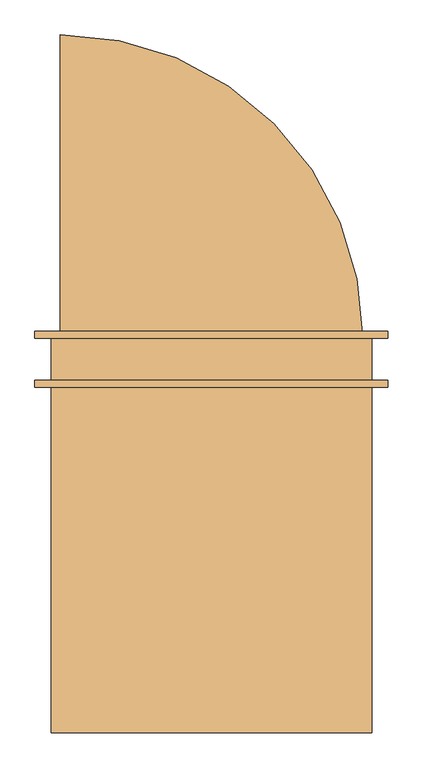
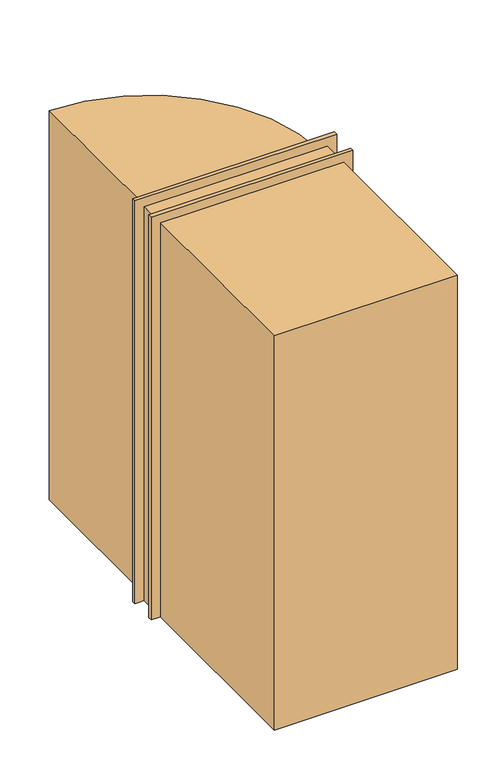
"""IFC4 building model written with IfcOpenShell, lengths in millimetres: door geometry, Дверь_Деревянная_Внутренняя_Однопольная_ГОСТ_475-2016 : 0910 х 2070(h)_Пр_с Порогом."""

import ifcopenshell
import ifcopenshell.guid

model = None  # the IFC model being written
_history = None  # IfcOwnerHistory: only IFC2X3 demands one
_inside = {}  # id of a spatial element -> (the spatial element, [elements in it])
_under = {}  # id of a project, library or spatial element -> (it, [spatial elements below it])
_declared = {}  # id of a project -> (the project, [libraries it declares])
_typed = {}  # id of a type object -> (the type object, [elements of that type])
_made_of = {}  # id of a material, layer set ... -> (it, [elements and type objects made of it])


def new_model(schema):
    """Start an empty IFC model of exactly this schema.

    Asked for "IFC4X3", IfcOpenShell would pick the latest addendum, in which some entities
    have other attributes; the version numbers below select the first issue.
    IFC2X3 requires an IfcOwnerHistory on every rooted entity: one is made here for all.
    """
    global model, _history
    if schema == "IFC4X3":
        model = ifcopenshell.file(schema_version=(4, 3, 0, 0))
    else:
        model = ifcopenshell.file(schema=schema)
    _inside.clear()
    _under.clear()
    _declared.clear()
    _typed.clear()
    _made_of.clear()
    _history = None
    if model.schema == "IFC2X3":
        org = make("IfcOrganization", Name="unknown")
        user = make(
            "IfcPersonAndOrganization",
            ThePerson=make("IfcPerson", FamilyName="unknown"),
            TheOrganization=org,
        )
        app = make(
            "IfcApplication",
            ApplicationDeveloper=org,
            Version="unknown",
            ApplicationFullName="unknown",
            ApplicationIdentifier="unknown",
        )
        _history = make(
            "IfcOwnerHistory",
            OwningUser=user,
            OwningApplication=app,
            ChangeAction="ADDED",
            CreationDate=0,
        )
    return model


def make(cls, **values):
    """One entity of the class cls with the attributes given. An attribute that is None is left unset."""
    return model.create_entity(
        cls, **{name: value for name, value in values.items() if value is not None}
    )


def rooted(cls, **values):
    """An entity with a GlobalId (a new one), such as an element, a storey or a relation."""
    return make(cls, GlobalId=ifcopenshell.guid.new(), OwnerHistory=_history, **values)


def si_unit(unit_type, name, prefix=None):
    """IfcSIUnit, for example si_unit("LENGTHUNIT", "METRE", prefix="MILLI")."""
    return make("IfcSIUnit", UnitType=unit_type, Prefix=prefix, Name=name)


def assignment(units):
    """IfcUnitAssignment: the units of a project."""
    return None if units is None else make("IfcUnitAssignment", Units=units)


def point(xyz):
    """IfcCartesianPoint."""
    return None if xyz is None else make("IfcCartesianPoint", Coordinates=xyz)


def direction(xyz):
    """IfcDirection."""
    return None if xyz is None else make("IfcDirection", DirectionRatios=xyz)


def frame(location, z_axis=None, x_axis=None):
    """IfcAxis2Placement3D, a coordinate frame: its origin and axes. An axis left out is left unset."""
    return make(
        "IfcAxis2Placement3D",
        Location=point(location),
        Axis=direction(z_axis),
        RefDirection=direction(x_axis),
    )


def frame_2d(location, x_axis=None):
    """IfcAxis2Placement2D, a coordinate frame in the plane: its origin and x axis."""
    return make(
        "IfcAxis2Placement2D", Location=point(location), RefDirection=direction(x_axis)
    )


def origin():
    """The frame at (0, 0, 0) with its axes left unset."""
    return frame((0.0, 0.0, 0.0))


def origin_with_axes():
    """The frame at (0, 0, 0) with the z axis (0, 0, 1) and the x axis (1, 0, 0) written out."""
    return frame((0.0, 0.0, 0.0), z_axis=(0.0, 0.0, 1.0), x_axis=(1.0, 0.0, 0.0))


def place(relative_to, where):
    """IfcLocalPlacement: puts the frame where relative to a parent placement (None: the world)."""
    return make(
        "IfcLocalPlacement", PlacementRelTo=relative_to, RelativePlacement=where
    )


def context(
    kind, dimensions, precision=None, world=None, true_north=None, identifier=None
):
    """IfcGeometricRepresentationContext, for example the 3D "Model" context."""
    return make(
        "IfcGeometricRepresentationContext",
        ContextIdentifier=identifier,
        ContextType=kind,
        CoordinateSpaceDimension=dimensions,
        Precision=precision,
        WorldCoordinateSystem=world,
        TrueNorth=true_north,
    )


def project(units=None, contexts=None):
    """IfcProject with its units and contexts."""
    return rooted(
        "IfcProject",
        Name="project",
        RepresentationContexts=contexts,
        UnitsInContext=assignment(units),
    )


def spatial(cls, under=None, at=None, **own):
    """A site, building, storey or space (cls), placed at a placement, below another one or the project."""
    s = rooted(cls, ObjectPlacement=at, **own)
    if under is not None:
        _under.setdefault(under.id(), (under, []))[1].append(s)
    return s


def polyline(points):
    """IfcPolyline through the points."""
    return make("IfcPolyline", Points=[point(p) for p in points])


def circle_curve(where, radius):
    """IfcCircle in the frame where."""
    return make("IfcCircle", Position=where, Radius=radius)


def trimmed(basis, trim1, trim2, sense, master):
    """IfcTrimmedCurve: the piece of a basis curve between two trims."""
    return make(
        "IfcTrimmedCurve",
        BasisCurve=basis,
        Trim1=trim1,
        Trim2=trim2,
        SenseAgreement=sense,
        MasterRepresentation=master,
    )


def segment(curve, same_sense, transition):
    """IfcCompositeCurveSegment."""
    return make(
        "IfcCompositeCurveSegment",
        Transition=transition,
        SameSense=same_sense,
        ParentCurve=curve,
    )


def composite_curve(segments, self_intersect=None):
    """IfcCompositeCurve: segments joined end to end."""
    return make("IfcCompositeCurve", Segments=segments, SelfIntersect=self_intersect)


def outline(outer, holes=None, kind="AREA"):
    """IfcArbitraryClosedProfileDef: a profile drawn as a closed curve; with holes, ...WithVoids."""
    if holes is None:
        return make("IfcArbitraryClosedProfileDef", ProfileType=kind, OuterCurve=outer)
    return make(
        "IfcArbitraryProfileDefWithVoids",
        ProfileType=kind,
        OuterCurve=outer,
        InnerCurves=holes,
    )


def extrude(swept, where, along, depth):
    """IfcExtrudedAreaSolid: the profile swept, set in the frame where, extruded along a direction by depth."""
    return make(
        "IfcExtrudedAreaSolid",
        SweptArea=swept,
        Position=where,
        ExtrudedDirection=direction(along),
        Depth=depth,
    )


def faces_of(points, faces, orient=None, outer=None):
    """IfcFace entities. A face is a list of loops; a loop is a list of indices into points, from 0.

    orient and outer hold one flag for each loop. By default every Orientation is true, the
    first loop of a face is its IfcFaceOuterBound and the others are IfcFaceBound.
    """
    made = []
    for i, loops in enumerate(faces):
        bounds = []
        for j, loop in enumerate(loops):
            is_outer = j == 0 if outer is None else outer[i][j]
            bounds.append(
                make(
                    "IfcFaceOuterBound" if is_outer else "IfcFaceBound",
                    Bound=make("IfcPolyLoop", Polygon=[points[k] for k in loop]),
                    Orientation=True if orient is None else orient[i][j],
                )
            )
        made.append(make("IfcFace", Bounds=bounds))
    return made


def faceted_brep(points, faces, orient=None, outer=None, voids=None):
    """IfcFacetedBrep: a solid bounded by flat faces; with voids (closed shells), ...WithVoids."""
    shared = [point(p) for p in points]
    hull = make("IfcClosedShell", CfsFaces=faces_of(shared, faces, orient, outer))
    if voids is None:
        return make("IfcFacetedBrep", Outer=hull)
    return make(
        "IfcFacetedBrepWithVoids",
        Outer=hull,
        Voids=[
            make(cls, CfsFaces=faces_of(shared, fs, o, b)) for cls, fs, o, b in voids
        ],
    )


def shape(context_of_items, identifier, shape_type, items):
    """IfcShapeRepresentation: the items that make up one representation, for example the "Body"."""
    return make(
        "IfcShapeRepresentation",
        ContextOfItems=context_of_items,
        RepresentationIdentifier=identifier,
        RepresentationType=shape_type,
        Items=items,
    )


def source(mapping_origin, context_of_items, identifier, shape_type, items):
    """IfcRepresentationMap: a shape defined once, which mapped items show again and again."""
    return make(
        "IfcRepresentationMap",
        MappingOrigin=mapping_origin,
        MappedRepresentation=shape(context_of_items, identifier, shape_type, items),
    )


def transform(
    local_origin,
    x_axis=None,
    y_axis=None,
    z_axis=None,
    scale=None,
    scale2=None,
    scale3=None,
    uniform=True,
):
    """IfcCartesianTransformationOperator3D, or its non-uniform kind. x_axis, y_axis, z_axis: its Axis1, 2, 3."""
    if uniform:
        return make(
            "IfcCartesianTransformationOperator3D",
            Axis1=direction(x_axis),
            Axis2=direction(y_axis),
            LocalOrigin=point(local_origin),
            Scale=scale,
            Axis3=direction(z_axis),
        )
    return make(
        "IfcCartesianTransformationOperator3DnonUniform",
        Axis1=direction(x_axis),
        Axis2=direction(y_axis),
        LocalOrigin=point(local_origin),
        Scale=scale,
        Axis3=direction(z_axis),
        Scale2=scale2,
        Scale3=scale3,
    )


def mapped(mapping_source, mapping_target):
    """IfcMappedItem: shows the shape of a source again, moved by a transform."""
    return make(
        "IfcMappedItem", MappingSource=mapping_source, MappingTarget=mapping_target
    )


def made_of(thing, what):
    """Note that an element or type object is made of a material, layer set ...; save() writes the relation."""
    if what is not None:
        _made_of.setdefault(what.id(), (what, []))[1].append(thing)
    return thing


def element(
    cls,
    number,
    at=None,
    inside=None,
    cuts=None,
    type_object=None,
    material=None,
    context=None,
    identifier="Body",
    shape_type=None,
    held_by="IfcProductDefinitionShape",
    body=None,
    shapes=None,
    **own,
):
    """One element of the class cls, such as IfcWall. Its Tag is "e" and its number.

    at: its placement. inside: the storey or other place that contains it. cuts: it is an
    opening in that element (IfcRelVoidsElement). A single representation is given by context,
    identifier, shape_type and body (its items); several are given by shapes. held_by: the class
    of the entity that holds the representations. save() writes the other relations.
    """
    e = rooted(cls, Tag="e%d" % number, ObjectPlacement=at, **own)
    if body is not None:
        shapes = [shape(context, identifier, shape_type, body)]
    if shapes is not None:
        e.Representation = make(held_by, Representations=shapes)
    if inside is not None:
        _inside.setdefault(inside.id(), (inside, []))[1].append(e)
    if cuts is not None:
        rooted(
            "IfcRelVoidsElement", RelatingBuildingElement=cuts, RelatedOpeningElement=e
        )
    if type_object is not None:
        _typed.setdefault(type_object.id(), (type_object, []))[1].append(e)
    return made_of(e, material)


def aggregate(whole, parts):
    """IfcRelAggregates: a whole, such as a stair, and the parts it consists of."""
    return rooted("IfcRelAggregates", RelatingObject=whole, RelatedObjects=parts)


def save(model, path):
    """Write the relations noted so far, then the file.

    IfcRelAggregates (storeys below a building ...), IfcRelContainedInSpatialStructure (elements
    in a storey), IfcRelDefinesByType, IfcRelAssociatesMaterial and IfcRelDeclares: one each for
    every whole, place, type object, material and project.
    """
    for whole, parts in _under.values():
        aggregate(whole, parts)
    for where, things in _inside.values():
        rooted(
            "IfcRelContainedInSpatialStructure",
            RelatedElements=things,
            RelatingStructure=where,
        )
    for kind, things in _typed.values():
        rooted("IfcRelDefinesByType", RelatedObjects=things, RelatingType=kind)
    for what, things in _made_of.values():
        rooted("IfcRelAssociatesMaterial", RelatedObjects=things, RelatingMaterial=what)
    for by, libraries in _declared.values():
        rooted("IfcRelDeclares", RelatingContext=by, RelatedDefinitions=libraries)
    model.write(path)


def plane_surface(at):
    """IfcPlane: the flat surface through the origin of the frame at, square to its z axis."""
    return make("IfcPlane", Position=at)


def cylinder_surface(at, radius):
    """IfcCylindricalSurface: all points at the distance radius from the z axis of the frame at."""
    return make("IfcCylindricalSurface", Position=at, Radius=radius)


def revolved_surface(curve, axis_point, axis_direction):
    """IfcSurfaceOfRevolution: the curve turned about the line through axis_point along axis_direction."""
    return make(
        "IfcSurfaceOfRevolution",
        SweptCurve=make("IfcArbitraryOpenProfileDef", ProfileType="CURVE", Curve=curve),
        AxisPosition=make("IfcAxis1Placement", Location=point(axis_point), Axis=direction(axis_direction)),
    )


def advanced_brep(points, edges, surfaces, faces):
    """IfcAdvancedBrep: a solid bounded by faces that lie on surfaces and meet in shared edges.

    An edge is (start, end): straight between two places in points (the first is 0);
    or (start, end, curve); or (start, end, curve, False) where it runs against its curve.
    A face is (place in surfaces, loops), or (place, loops, False) where it looks against
    its surface's normal. A loop lists edges by number (the first is 1), with a minus sign
    where the edge is run from its end to its start. The first loop is the outer one.
    """
    corners = [point(p) for p in points]
    vertices = [make("IfcVertexPoint", VertexGeometry=c) for c in corners]
    made = []
    for start, end, *more in edges:
        made.append(
            make(
                "IfcEdgeCurve",
                EdgeStart=vertices[start],
                EdgeEnd=vertices[end],
                EdgeGeometry=more[0] if more else make("IfcPolyline", Points=[corners[start], corners[end]]),
                SameSense=more[1] if len(more) > 1 else True,
            )
        )
    hull = []
    for where, loops, *sense in faces:
        bounds = []
        for j, loop in enumerate(loops):
            ring = [make("IfcOrientedEdge", EdgeElement=made[abs(k) - 1], Orientation=k > 0) for k in loop]
            bounds.append(
                make(
                    "IfcFaceOuterBound" if j == 0 else "IfcFaceBound",
                    Bound=make("IfcEdgeLoop", EdgeList=ring),
                    Orientation=True,
                )
            )
        hull.append(make("IfcAdvancedFace", Bounds=bounds, FaceSurface=surfaces[where], SameSense=sense[0] if sense else True))
    return make("IfcAdvancedBrep", Outer=make("IfcClosedShell", CfsFaces=hull))


def door_23e4fe7f(model_context):
    return source(origin(), model_context, "Body", "SolidModel", [
        extrude(outline(composite_curve([segment(trimmed(circle_curve(frame_2d((-430.0, 56.825)), 860.0), [point((-430.0, 916.825))], [point((430.0, 56.825))], False, "CARTESIAN"), True, "CONTINUOUS"), segment(polyline([(430.0, 56.825), (-430.0, 56.825), (-430.0, 916.825)]), True, "CONTINUOUS")], self_intersect=False)), origin_with_axes(), (0.0, 0.0, 1.0), 2045.0),
        extrude(outline(polyline([(-455.0, -1063.175), (-455.0, -63.175), (455.0, -63.175), (455.0, -1063.175), (-455.0, -1063.175)])), origin_with_axes(), (0.0, 0.0, 1.0), 2070.0),
        advanced_brep(
        [(365.0, 15.825, 914.4), (375.0, 15.825, 914.4), (355.0, 15.825, 914.4), (344.5241324, -33.175, 914.4), (385.4758676, -33.175, 914.4), (365.0, -33.175, 914.4), (340.0, -31.3471319, 914.4), (390.0, -31.3471319, 914.4), (340.0, -27.8834537, 914.4), (390.0, -27.8834537, 914.4), (346.363764, -3.175, 914.4), (383.636236, -3.175, 914.4), (355.0, -3.175, 914.4), (375.0, -3.175, 914.4)],
        [
            (0, 1),
            (1, 2, circle_curve(frame((365.0, 15.825, 914.4), z_axis=(0.0, 1.0, 0.0), x_axis=(1.0, 0.0, 0.0)), 10.0)),
            (2, 0),
            (2, 1, circle_curve(frame((365.0, 15.825, 914.4), z_axis=(0.0, 1.0, 0.0), x_axis=(1.0, 0.0, 0.0)), 10.0)),
            (3, 4, circle_curve(frame((365.0, -33.175, 914.4), z_axis=(0.0, -1.0, 0.0), x_axis=(1.0, 0.0, 0.0)), 20.4758676)),
            (4, 5),
            (5, 3),
            (4, 3, circle_curve(frame((365.0, -33.175, 914.4), z_axis=(0.0, -1.0, 0.0), x_axis=(1.0, 0.0, 0.0)), 20.4758676)),
            (6, 7, circle_curve(frame((365.0, -31.3471319, 914.4), z_axis=(0.0, -1.0, 0.0), x_axis=(1.0, 0.0, 0.0)), 25.0)),
            (7, 4),
            (3, 6),
            (7, 6, circle_curve(frame((365.0, -31.3471319, 914.4), z_axis=(0.0, -1.0, 0.0), x_axis=(1.0, 0.0, 0.0)), 25.0)),
            (8, 9, circle_curve(frame((365.0, -27.8834537, 914.4), z_axis=(0.0, -1.0, 0.0), x_axis=(1.0, 0.0, 0.0)), 25.0)),
            (9, 7),
            (6, 8),
            (9, 8, circle_curve(frame((365.0, -27.8834537, 914.4), z_axis=(0.0, -1.0, 0.0), x_axis=(1.0, 0.0, 0.0)), 25.0)),
            (10, 11, circle_curve(frame((365.0, -3.175, 914.4), z_axis=(0.0, -1.0, 0.0), x_axis=(1.0, 0.0, 0.0)), 18.636236)),
            (11, 9),
            (8, 10),
            (11, 10, circle_curve(frame((365.0, -3.175, 914.4), z_axis=(0.0, -1.0, 0.0), x_axis=(1.0, 0.0, 0.0)), 18.636236)),
            (12, 13, circle_curve(frame((365.0, -3.175, 914.4), z_axis=(0.0, -1.0, 0.0), x_axis=(1.0, 0.0, 0.0)), 10.0)),
            (13, 11),
            (10, 12),
            (13, 12, circle_curve(frame((365.0, -3.175, 914.4), z_axis=(0.0, -1.0, 0.0), x_axis=(1.0, 0.0, 0.0)), 10.0)),
            (1, 13),
            (12, 2),
        ],
        [
            plane_surface(frame((365.0, 15.825, 914.4), z_axis=(0.0, 1.0, 0.0), x_axis=(1.0, 0.0, 0.0))),
            plane_surface(frame((365.0, -33.175, 914.4), z_axis=(0.0, -1.0, 0.0), x_axis=(1.0, 0.0, 0.0))),
            revolved_surface(polyline([(385.4758676, -33.175, 914.4), (390.0, -31.3471319, 914.4)]), (365.0, 15.825, 914.4), (0.0, 1.0, 0.0)),
            cylinder_surface(frame((365.0, 15.825, 914.4), z_axis=(0.0, 1.0, 0.0), x_axis=(1.0, 0.0, 0.0)), 25.0),
            revolved_surface(polyline([(390.0, -27.8834537, 914.4), (383.636236, -3.175, 914.4)]), (365.0, 15.825, 914.4), (0.0, 1.0, 0.0)),
            plane_surface(frame((365.0, -3.175, 914.4), z_axis=(0.0, 1.0, 0.0), x_axis=(1.0, 0.0, 0.0))),
            cylinder_surface(frame((365.0, 15.825, 914.4), z_axis=(0.0, 1.0, 0.0), x_axis=(1.0, 0.0, 0.0)), 10.0),
        ],
        [
            (0, [[1, 2, 3]]),
            (0, [[-3, 4, -1]]),
            (1, [[5, 6, 7]]),
            (1, [[8, -7, -6]]),
            (2, [[9, 10, -5, 11]]),
            (2, [[12, -11, -8, -10]]),
            (3, [[13, 14, -9, 15]]),
            (3, [[16, -15, -12, -14]]),
            (4, [[17, 18, -13, 19]]),
            (4, [[20, -19, -16, -18]]),
            (5, [[21, 22, -17, 23]]),
            (5, [[24, -23, -20, -22]]),
            (6, [[-2, 25, -21, 26]]),
            (6, [[-4, -26, -24, -25]]),
        ],
    ),
        extrude(outline(composite_curve([segment(trimmed(circle_curve(frame_2d((914.4, 365.0)), 30.0), [point((914.4, 395.0))], [point((914.4, 335.0))], False, "CARTESIAN"), True, "CONTINUOUS"), segment(trimmed(circle_curve(frame_2d((914.4, 365.0)), 30.0), [point((914.4, 335.0))], [point((914.4, 395.0))], False, "CARTESIAN"), True, "CONTINUOUS")], self_intersect=False)), frame((0.0, 15.825, 0.0), z_axis=(0.0, 1.0, 0.0), x_axis=(0.0, 0.0, 1.0)), (0.0, 0.0, 1.0), 6.0),
        advanced_brep(
        [(365.0, 62.825, 914.4), (355.0, 62.825, 914.4), (375.0, 62.825, 914.4), (344.5241324, 111.825, 914.4), (365.0, 111.825, 914.4), (385.4758676, 111.825, 914.4), (340.0, 109.9971319, 914.4), (390.0, 109.9971319, 914.4), (340.0, 106.5334537, 914.4), (390.0, 106.5334537, 914.4), (346.363764, 81.825, 914.4), (383.636236, 81.825, 914.4), (355.0, 81.825, 914.4), (375.0, 81.825, 914.4)],
        [
            (0, 1),
            (1, 2, circle_curve(frame((365.0, 62.825, 914.4), z_axis=(0.0, -1.0, 0.0), x_axis=(1.0, 0.0, 0.0)), 10.0)),
            (2, 0),
            (2, 1, circle_curve(frame((365.0, 62.825, 914.4), z_axis=(0.0, -1.0, 0.0), x_axis=(1.0, 0.0, 0.0)), 10.0)),
            (3, 4),
            (4, 5),
            (5, 3, circle_curve(frame((365.0, 111.825, 914.4), z_axis=(0.0, 1.0, 0.0), x_axis=(1.0, 0.0, 0.0)), 20.4758676)),
            (3, 5, circle_curve(frame((365.0, 111.825, 914.4), z_axis=(0.0, 1.0, 0.0), x_axis=(1.0, 0.0, 0.0)), 20.4758676)),
            (6, 3),
            (5, 7),
            (7, 6, circle_curve(frame((365.0, 109.9971319, 914.4), z_axis=(0.0, 1.0, 0.0), x_axis=(1.0, 0.0, 0.0)), 25.0)),
            (6, 7, circle_curve(frame((365.0, 109.9971319, 914.4), z_axis=(0.0, 1.0, 0.0), x_axis=(1.0, 0.0, 0.0)), 25.0)),
            (8, 6),
            (7, 9),
            (9, 8, circle_curve(frame((365.0, 106.5334537, 914.4), z_axis=(0.0, 1.0, 0.0), x_axis=(1.0, 0.0, 0.0)), 25.0)),
            (8, 9, circle_curve(frame((365.0, 106.5334537, 914.4), z_axis=(0.0, 1.0, 0.0), x_axis=(1.0, 0.0, 0.0)), 25.0)),
            (10, 8),
            (9, 11),
            (11, 10, circle_curve(frame((365.0, 81.825, 914.4), z_axis=(0.0, 1.0, 0.0), x_axis=(1.0, 0.0, 0.0)), 18.636236)),
            (10, 11, circle_curve(frame((365.0, 81.825, 914.4), z_axis=(0.0, 1.0, 0.0), x_axis=(1.0, 0.0, 0.0)), 18.636236)),
            (12, 10),
            (11, 13),
            (13, 12, circle_curve(frame((365.0, 81.825, 914.4), z_axis=(0.0, 1.0, 0.0), x_axis=(1.0, 0.0, 0.0)), 10.0)),
            (12, 13, circle_curve(frame((365.0, 81.825, 914.4), z_axis=(0.0, 1.0, 0.0), x_axis=(1.0, 0.0, 0.0)), 10.0)),
            (1, 12),
            (13, 2),
        ],
        [
            plane_surface(frame((365.0, 62.825, 914.4), z_axis=(0.0, -1.0, 0.0), x_axis=(1.0, 0.0, 0.0))),
            plane_surface(frame((365.0, 111.825, 914.4), z_axis=(0.0, 1.0, 0.0), x_axis=(1.0, 0.0, 0.0))),
            revolved_surface(polyline([(385.4758676, 111.825, 914.4), (390.0, 109.9971319, 914.4)]), (365.0, 62.825, 914.4), (0.0, -1.0, 0.0)),
            cylinder_surface(frame((365.0, 62.825, 914.4), z_axis=(0.0, -1.0, 0.0), x_axis=(1.0, 0.0, 0.0)), 25.0),
            revolved_surface(polyline([(390.0, 106.5334537, 914.4), (383.636236, 81.825, 914.4)]), (365.0, 62.825, 914.4), (0.0, -1.0, 0.0)),
            plane_surface(frame((365.0, 81.825, 914.4), z_axis=(0.0, -1.0, 0.0), x_axis=(1.0, 0.0, 0.0))),
            cylinder_surface(frame((365.0, 62.825, 914.4), z_axis=(0.0, -1.0, 0.0), x_axis=(1.0, 0.0, 0.0)), 10.0),
        ],
        [
            (0, [[1, 2, 3]]),
            (0, [[-3, 4, -1]]),
            (1, [[5, 6, 7]]),
            (1, [[-6, -5, 8]]),
            (2, [[9, -7, 10, 11]]),
            (2, [[-10, -8, -9, 12]]),
            (3, [[13, -11, 14, 15]]),
            (3, [[-14, -12, -13, 16]]),
            (4, [[17, -15, 18, 19]]),
            (4, [[-18, -16, -17, 20]]),
            (5, [[21, -19, 22, 23]]),
            (5, [[-22, -20, -21, 24]]),
            (6, [[25, -23, 26, -2]]),
            (6, [[-26, -24, -25, -4]]),
        ],
    ),
        extrude(outline(composite_curve([segment(trimmed(circle_curve(frame_2d((914.4, 365.0)), 30.0), [point((914.4, 395.0))], [point((914.4, 335.0))], False, "CARTESIAN"), True, "CONTINUOUS"), segment(trimmed(circle_curve(frame_2d((914.4, 365.0)), 30.0), [point((914.4, 335.0))], [point((914.4, 395.0))], False, "CARTESIAN"), True, "CONTINUOUS")], self_intersect=False)), frame((0.0, 56.825, 0.0), z_axis=(0.0, 1.0, 0.0), x_axis=(0.0, 0.0, 1.0)), (0.0, 0.0, 1.0), 6.0),
        extrude(outline(polyline([(310.0, 33.4916667), (-310.0, 33.4916667), (-310.0, 45.1583333), (310.0, 45.1583333), (310.0, 33.4916667)])), frame((0.0, 0.0, 230.0), z_axis=(0.0, 0.0, 1.0), x_axis=(1.0, 0.0, 0.0)), (0.0, 0.0, 1.0), 1695.0),
        extrude(outline(polyline([(2045.0, -430.0), (25.0, -430.0), (25.0, 430.0), (2045.0, 430.0), (2045.0, -430.0)]), holes=[polyline([(1925.0, -310.0), (1925.0, 310.0), (230.0, 310.0), (230.0, -310.0), (1925.0, -310.0)])]), frame((0.0, 21.825, 0.0), z_axis=(0.0, 1.0, 0.0), x_axis=(0.0, 0.0, 1.0)), (0.0, 0.0, 1.0), 35.0),
        faceted_brep([(455.0, 56.825, 0.0), (455.0, -63.175, 0.0), (430.0, -63.175, 0.0), (430.0, -13.1, 0.0), (417.3, -13.1, 0.0), (417.3, 21.825, 0.0), (430.0, 21.825, 0.0), (430.0, 56.825, 0.0), (455.0, 56.825, 2070.0), (455.0, -63.175, 2070.0), (-455.0, -63.175, 2070.0), (-455.0, -63.175, 0.0), (-430.0, -63.175, 0.0), (-430.0, -63.175, 2045.0), (430.0, -63.175, 2045.0), (430.0, -13.1, 2045.0), (-430.0, -13.1, 2045.0), (-430.0, -13.1, 0.0), (-417.3, -13.1, 0.0), (-417.3, -13.1, 2032.3), (417.3, -13.1, 2032.3), (417.3, 21.825, 2032.3), (-417.3, 21.825, 2032.3), (-417.3, 21.825, 0.0), (-430.0, 21.825, 0.0), (-430.0, 21.825, 2045.0), (430.0, 21.825, 2045.0), (430.0, 56.825, 2045.0), (-430.0, 56.825, 2045.0), (-430.0, 56.825, 0.0), (-455.0, 56.825, 0.0), (-455.0, 56.825, 2070.0)], [[[0, 1, 2, 3, 4, 5, 6, 7]], [[1, 0, 8, 9]], [[2, 1, 9, 10, 11, 12, 13, 14]], [[3, 2, 14, 15]], [[4, 3, 15, 16, 17, 18, 19, 20]], [[5, 4, 20, 21]], [[6, 5, 21, 22, 23, 24, 25, 26]], [[7, 6, 26, 27]], [[0, 7, 27, 28, 29, 30, 31, 8]], [[9, 8, 31, 10]], [[15, 14, 13, 16]], [[21, 20, 19, 22]], [[27, 26, 25, 28]], [[30, 29, 24, 23, 18, 17, 12, 11]], [[10, 31, 30, 11]], [[16, 13, 12, 17]], [[22, 19, 18, 23]], [[28, 25, 24, 29]]]),
        extrude(outline(polyline([(0.0, 436.35), (0.0, 501.35), (2116.35, 501.35), (2116.35, -501.35), (0.0, -501.35), (0.0, -436.35), (2051.35, -436.35), (2051.35, 436.35), (0.0, 436.35)])), frame((0.0, -83.175, 0.0), z_axis=(0.0, 1.0, 0.0), x_axis=(0.0, 0.0, 1.0)), (0.0, 0.0, 1.0), 20.0),
        extrude(outline(polyline([(0.0, 436.35), (0.0, 501.35), (2116.35, 501.35), (2116.35, -501.35), (0.0, -501.35), (0.0, -436.35), (2051.35, -436.35), (2051.35, 436.35), (0.0, 436.35)])), frame((0.0, 56.825, 0.0), z_axis=(0.0, 1.0, 0.0), x_axis=(0.0, 0.0, 1.0)), (0.0, 0.0, 1.0), 20.0),
        extrude(outline(polyline([(430.0, 56.825), (430.0, 21.825), (-430.0, 21.825), (-430.0, 56.825), (430.0, 56.825)])), origin_with_axes(), (0.0, 0.0, 1.0), 25.0),
    ])


if __name__ == "__main__":
    model = new_model("IFC4")
    model_context = context("Model", 3, world=origin())
    ifc_project = project(units=[si_unit("LENGTHUNIT", "METRE", prefix="MILLI")], contexts=[model_context])
    site = spatial("IfcSite", under=ifc_project)
    building = spatial("IfcBuilding", under=site)
    placement = place(None, origin())
    door_shape = door_23e4fe7f(model_context)
    element("IfcDoor", 1, ObjectType="Дверь_Деревянная_Внутренняя_Однопольная_ГОСТ_475-2016 : 0910 х 2070(h)_Пр_с Порогом", at=placement, inside=building, context=model_context, shape_type="MappedRepresentation", body=[
        mapped(door_shape, transform((0.0, 0.0, 0.0), x_axis=(1.0, 0.0, 0.0), y_axis=(0.0, 1.0, 0.0), z_axis=(0.0, 0.0, 1.0))),
    ])
    save(model, "model.ifc")
